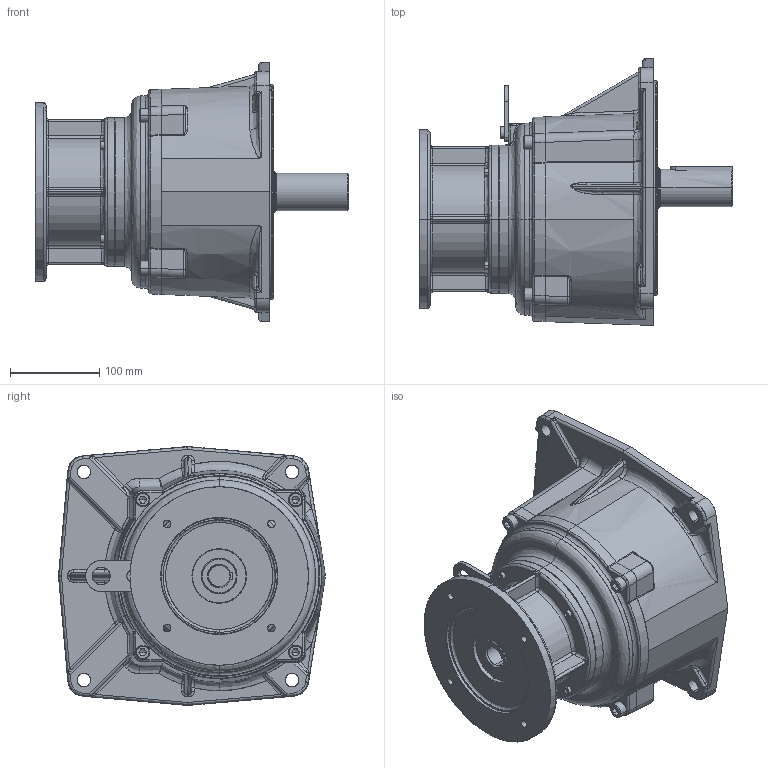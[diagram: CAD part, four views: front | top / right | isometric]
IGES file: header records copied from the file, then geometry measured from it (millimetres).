
Start section: SolidWorks IGES file using analytic representation for surfaces
Bounding box: 351 x 299 x 290 mm (x, y, z)
Surface area: 585924.6 mm2 (no closed solid volume)
Topology: 0 solids, 0 shells, 899 faces, 11062 edges, 10986 vertices
Faces by surface type: bspline 529, revolution 370
